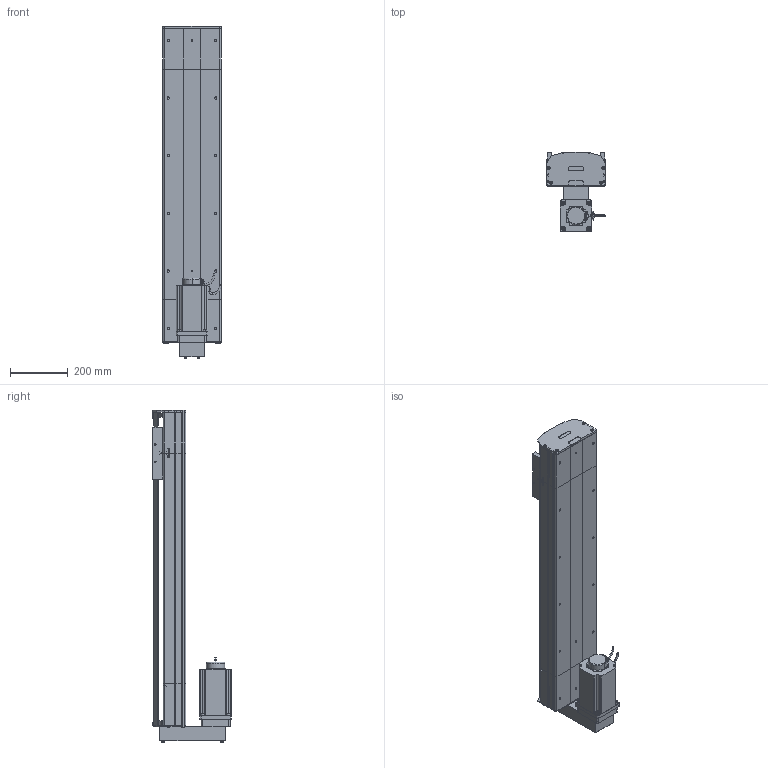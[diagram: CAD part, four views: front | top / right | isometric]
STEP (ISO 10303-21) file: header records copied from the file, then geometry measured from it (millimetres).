
FILE_DESCRIPTION (( 'STEP AP214' ), '1' );
FILE_NAME ('D20 TSH BM S800.STEP', '2010-06-30T08:36:19', ( 'Conseil Régional Haute-Normandie' ), ( 'Conseil Régional Haute-Normandie' ), 'SwSTEP 2.0', 'SolidWorks 2010', '' );
FILE_SCHEMA (( 'AUTOMOTIVE_DESIGN' ));
Length unit declared in the file: millimetre
Products named in the file (35): corps 110BLDC170A-630x; couvercle head l D20_Default; Arbre+rail head D20; Plaque racord D20_Default; tail D20 S_Default; vis M5 L70_Default; Conecteur_Default; Conecteur2_Default; codeur 110BLDC170A-630x; Moteur motionking 110BLDC170A-640x; head BM D20_Default; corpl head MD D20_Default; plaque de  bout head BR D20_Default; avant 110BLDC170A-630x; renvoi  BM_Default; vis M8 L12_Default; clavette; tete d''axe haut D20; 2 vis M5 L12_Default; chariot D20S_Default; Chariot D20; vis M5 L12_Default; vis M5 L8 90°_Default; guide D20; vis M5 L25_Default; plaque de  bout tail D20_Default; couvercle tail D20_Default; corpl tail D20_Default; tete d''axe bas D20; Arbre+rail tail D20; couvercle D20 S800_Default; rail + arbre  D20 S800; corp D20 S800_Default; course D20 L800_Default; D20 TSH BM S800
Assembly tree (59 placements, depth 4):
  D20 TSH BM S800
    head BM D20_Default
      2 vis M5 L12_Default  x6
      vis M5 L70_Default  x4
      corpl head MD D20_Default
      Moteur motionking 110BLDC170A-640x
        corps 110BLDC170A-630x
        clavette
        avant 110BLDC170A-630x
        Conecteur2_Default
        Conecteur_Default
        codeur 110BLDC170A-630x
      couvercle head l D20_Default
      vis M5 L12_Default  x2
      Plaque racord D20_Default
      vis M5 L25_Default  x2
      plaque de  bout head BR D20_Default
      renvoi  BM_Default
      vis M8 L12_Default  x4
      Arbre+rail head D20
    chariot D20S_Default
      vis M5 L12_Default  x4
      Chariot D20
      guide D20  x2
    course D20 L800_Default
      corp D20 S800_Default
      couvercle D20 S800_Default
      rail + arbre  D20 S800
    tail D20 S_Default
      2 vis M5 L12_Default  x4
      tete d''axe bas D20
      tete d''axe haut D20
      vis M5 L25_Default  x2
      vis M5 L8 90°_Default  x2
      couvercle tail D20_Default
      plaque de  bout tail D20_Default
      corpl tail D20_Default
      Arbre+rail tail D20
Bounding box: 206 x 273.7 x 1151.7 mm (x, y, z)
Volume: 11754571.4 mm3; surface area: 2414943.4 mm2
Topology: 84 solids, 84 shells, 2318 faces, 5822 edges, 3759 vertices
Faces by surface type: plane 1382, cylinder 648, bspline 136, torus 77, cone 71, sphere 4
Entity records: 75233 total; most frequent: CARTESIAN_POINT 24587, ORIENTED_EDGE 8940, DIRECTION 8429, EDGE_CURVE 4470, LINE 2951, VECTOR 2951, VERTEX_POINT 2941, AXIS2_PLACEMENT_3D 2739
